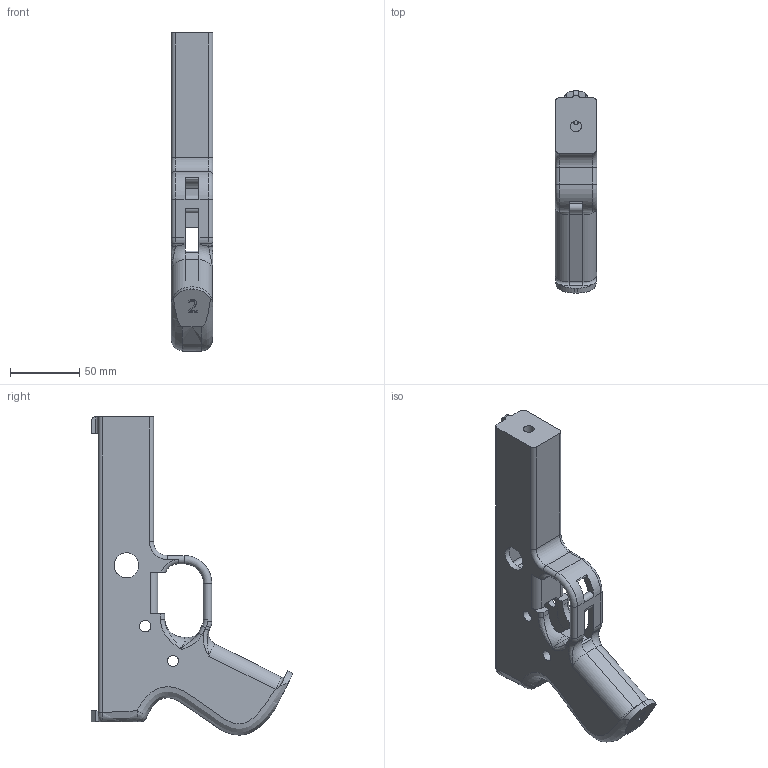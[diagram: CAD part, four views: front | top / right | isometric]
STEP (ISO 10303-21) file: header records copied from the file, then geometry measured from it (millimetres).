
FILE_DESCRIPTION((''),'2;1');
FILE_NAME('C:\Users\JamesRPatrick\Documents\Autodesk\PM422\STEP2.0\PM422Frame2.stp','2015-09-29T15:53:02',('JamesRPatrick'),(''),'Autodesk Inventor 2012','Autodesk Inventor 2012','');
FILE_SCHEMA(('AUTOMOTIVE_DESIGN { 1 0 10303 214 1 1 1 1 }'));
Length unit declared in the file: millimetre
Products named in the file (1): PM422Frame2
Bounding box: 30 x 145.5 x 229.5 mm (x, y, z)
Volume: 228846.8 mm3; surface area: 71565.7 mm2
Topology: 1 solids, 1 shells, 577 faces, 1593 edges, 1032 vertices
Faces by surface type: plane 269, bspline 182, cylinder 92, torus 30, sphere 4
Full cylindrical faces by diameter (mm): 3 x1, 8 x1, 8.1 x4, 12 x3, 18 x1
Entity records: 21304 total; most frequent: CARTESIAN_POINT 7457, ORIENTED_EDGE 3148, DIRECTION 2206, EDGE_CURVE 1574, VERTEX_POINT 1027, VECTOR 916, LINE 916, AXIS2_PLACEMENT_3D 645
